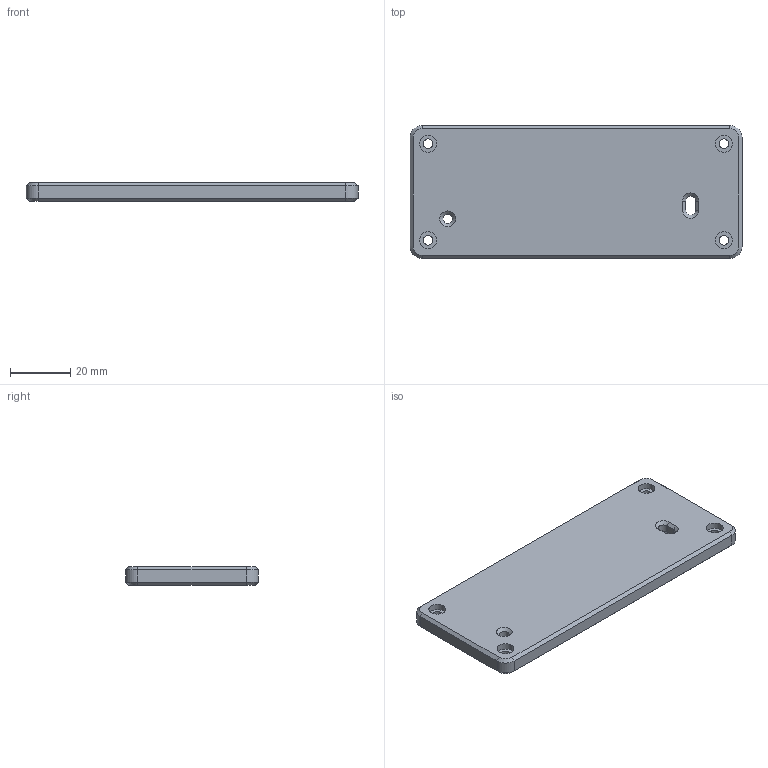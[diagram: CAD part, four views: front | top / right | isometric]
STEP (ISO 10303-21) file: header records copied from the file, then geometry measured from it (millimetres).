
FILE_DESCRIPTION(('FreeCAD Model'),'2;1');
FILE_NAME('/home/michael/Desktop/Classic Audio/Enclosure Design/Spartan 5/Export/Front plate.step','2022-07-25T11:04:31',('Author'),(''), 'Open CASCADE STEP processor 7.3','FreeCAD','Unknown');
FILE_SCHEMA(('AUTOMOTIVE_DESIGN { 1 0 10303 214 1 1 1 1 }'));
Length unit declared in the file: millimetre
Products named in the file (1): Body
Bounding box: 110 x 44 x 6 mm (x, y, z)
Volume: 28114.6 mm3; surface area: 11445.5 mm2
Topology: 1 solids, 1 shells, 53 faces, 116 edges, 69 vertices
Faces by surface type: plane 24, cylinder 18, cone 11
Full cylindrical faces by diameter (mm): 3.2 x5, 5.6 x4
Entity records: 3016 total; most frequent: CARTESIAN_POINT 519, DIRECTION 497, LINE 261, VECTOR 261, ORIENTED_EDGE 232, PCURVE 232, DEFINITIONAL_REPRESENTATION 232, EDGE_CURVE 116
